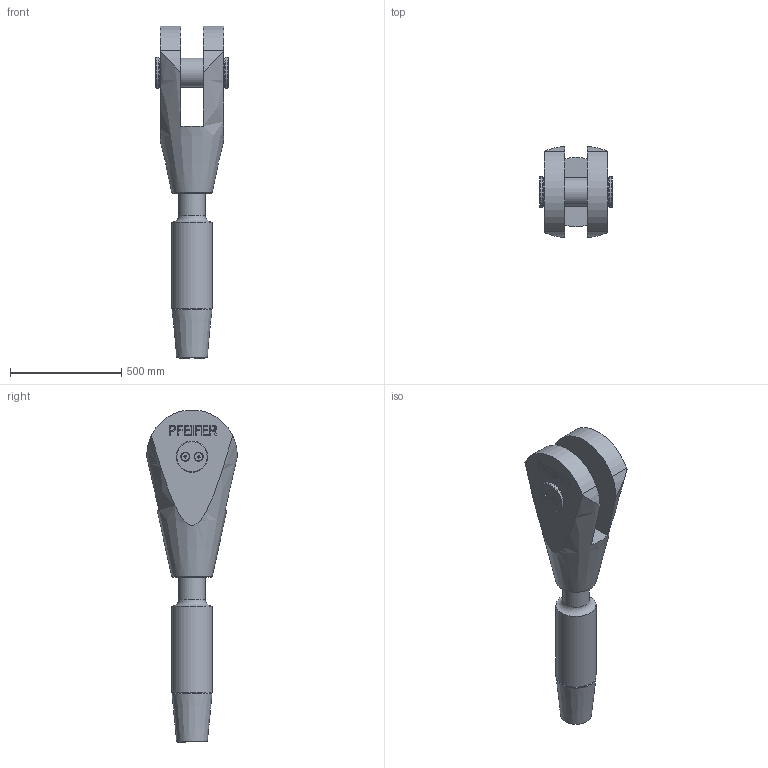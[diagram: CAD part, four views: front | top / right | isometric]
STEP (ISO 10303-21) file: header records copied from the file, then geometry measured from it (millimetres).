
FILE_DESCRIPTION(/* description */ (''),/* implementation_level */ '2;1');
FILE_NAME(/* name */ 'G:\Engineering\700 CAD\Internet-PX-1-step-igs-dxf\520-GAK-ADA-Arbeitsdateien\520-120-GAK-ADA.stp',/* time_stamp */ '2020-07-03T13:16:59+02:00',/* author */ ('schwarz'),/* organization */ (''),/* preprocessor_version */ 'ST-DEVELOPER v16.1',/* originating_system */ 'Autodesk Inventor 2016',/* authorisation */ '');
FILE_SCHEMA (('AUTOMOTIVE_DESIGN { 1 0 10303 214 3 1 1 }'));
Length unit declared in the file: centimetre
Products named in the file (1): 520-120-GAK-ADA-Kunde
Bounding box: 327 x 407.09 x 1489.28 mm (x, y, z)
Volume: 55606635.1 mm3; surface area: 1721004.9 mm2
Topology: 2 solids, 10 shells, 247 faces, 627 edges, 414 vertices
Faces by surface type: plane 165, cone 30, cylinder 30, bspline 21, torus 1
Full cylindrical faces by diameter (mm): 17.294 x4, 20 x4, 22 x4, 36.05 x4, 120 x1, 124 x1, 129 x1, 132 x2, 140 x2, 180 x1
Entity records: 7230 total; most frequent: CARTESIAN_POINT 1549, ORIENTED_EDGE 1082, DIRECTION 1000, EDGE_CURVE 541, LINE 384, VECTOR 384, VERTEX_POINT 383, EDGE_LOOP 328
